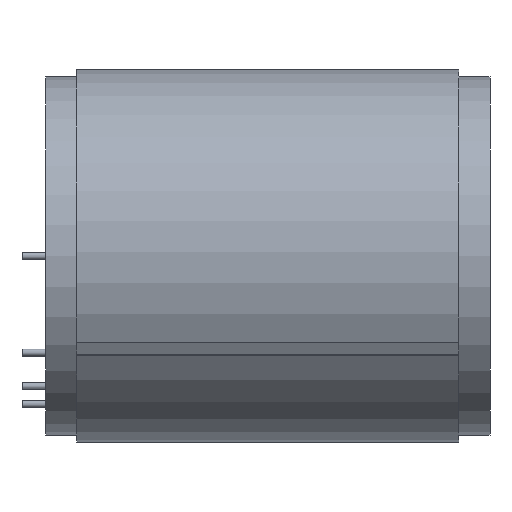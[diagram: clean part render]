
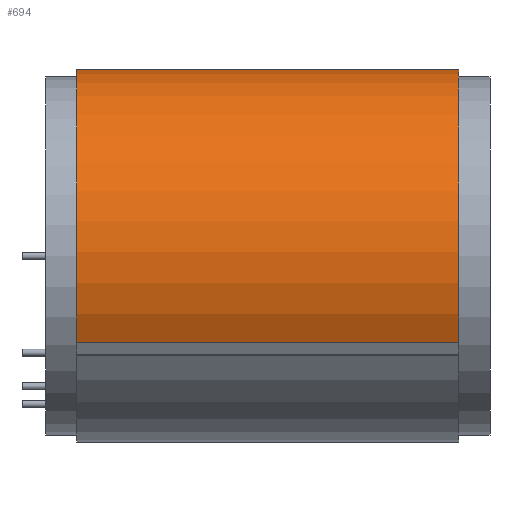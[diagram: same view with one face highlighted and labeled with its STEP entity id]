
A CAD part, left-side view. The second image highlights one B-rep face of the part: STEP entity #694.
In plain terms, the highlighted cylindrical face has radius 39 mm (diameter 78 mm), a partial arc.
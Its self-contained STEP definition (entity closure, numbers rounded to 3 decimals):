
#98 = EDGE_CURVE ( 'NONE', #1288, #3157, #4389, .T. ) ;
#122 = ORIENTED_EDGE ( 'NONE', *, *, #390, .T. ) ;
#311 = ORIENTED_EDGE ( 'NONE', *, *, #3447, .T. ) ;
#390 = EDGE_CURVE ( 'NONE', #4090, #2245, #2196, .T. ) ;
#396 = EDGE_CURVE ( 'NONE', #1288, #4090, #2095, .T. ) ;
#694 = ADVANCED_FACE ( 'NONE', ( #3252 ), #4820, .T. ) ;
#699 = DIRECTION ( 'NONE',  ( 0., 0., 1. ) ) ;
#973 = DIRECTION ( 'NONE',  ( 0., -1., 0. ) ) ;
#1058 = CARTESIAN_POINT ( 'NONE',  ( -3.632, 82.739, 117.365 ) ) ;
#1103 = CARTESIAN_POINT ( 'NONE',  ( -2.107, 82.739, 78.395 ) ) ;
#1288 = VERTEX_POINT ( 'NONE', #4106 ) ;
#1418 = AXIS2_PLACEMENT_3D ( 'NONE', #3607, #1798, #699 ) ;
#1430 = AXIS2_PLACEMENT_3D ( 'NONE', #4446, #2588, #2496 ) ;
#1479 = VECTOR ( 'NONE', #2824, 1000. ) ;
#1496 = DIRECTION ( 'NONE',  ( 0., 0., -1. ) ) ;
#1645 = AXIS2_PLACEMENT_3D ( 'NONE', #1103, #2228, #1496 ) ;
#1684 = ORIENTED_EDGE ( 'NONE', *, *, #396, .T. ) ;
#1746 = CARTESIAN_POINT ( 'NONE',  ( -36.619, 82.739, 60.23 ) ) ;
#1798 = DIRECTION ( 'NONE',  ( 0., 1., 0. ) ) ;
#2095 = LINE ( 'NONE', #1746, #2663 ) ;
#2196 = CIRCLE ( 'NONE', #1418, 39. ) ;
#2228 = DIRECTION ( 'NONE',  ( 0., -1., 0. ) ) ;
#2245 = VERTEX_POINT ( 'NONE', #3704 ) ;
#2496 = DIRECTION ( 'NONE',  ( 0., 0., 1. ) ) ;
#2588 = DIRECTION ( 'NONE',  ( 0., 1., 0. ) ) ;
#2663 = VECTOR ( 'NONE', #973, 1000. ) ;
#2824 = DIRECTION ( 'NONE',  ( 0., 1., 0. ) ) ;
#3157 = VERTEX_POINT ( 'NONE', #1058 ) ;
#3192 = LINE ( 'NONE', #3505, #1479 ) ;
#3226 = EDGE_LOOP ( 'NONE', ( #4202, #1684, #122, #311 ) ) ;
#3252 = FACE_OUTER_BOUND ( 'NONE', #3226, .T. ) ;
#3447 = EDGE_CURVE ( 'NONE', #2245, #3157, #3192, .T. ) ;
#3505 = CARTESIAN_POINT ( 'NONE',  ( -3.632, 82.739, 117.365 ) ) ;
#3607 = CARTESIAN_POINT ( 'NONE',  ( -2.107, 2.739, 78.395 ) ) ;
#3704 = CARTESIAN_POINT ( 'NONE',  ( -3.632, 2.739, 117.365 ) ) ;
#4090 = VERTEX_POINT ( 'NONE', #4537 ) ;
#4106 = CARTESIAN_POINT ( 'NONE',  ( -36.619, 82.739, 60.23 ) ) ;
#4202 = ORIENTED_EDGE ( 'NONE', *, *, #98, .F. ) ;
#4389 = CIRCLE ( 'NONE', #1430, 39. ) ;
#4446 = CARTESIAN_POINT ( 'NONE',  ( -2.107, 82.739, 78.395 ) ) ;
#4537 = CARTESIAN_POINT ( 'NONE',  ( -36.619, 2.739, 60.23 ) ) ;
#4820 = CYLINDRICAL_SURFACE ( 'NONE', #1645, 39. ) ;
